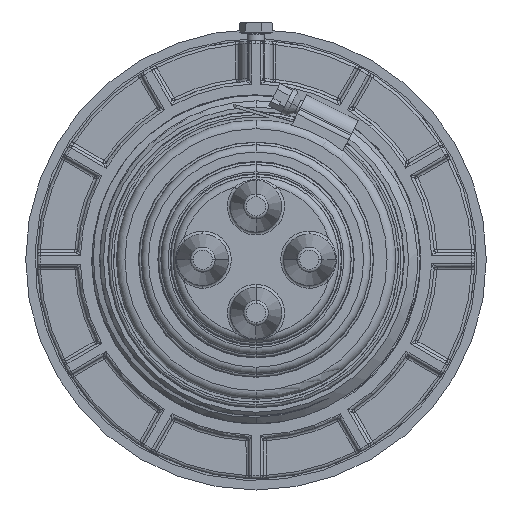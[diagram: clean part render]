
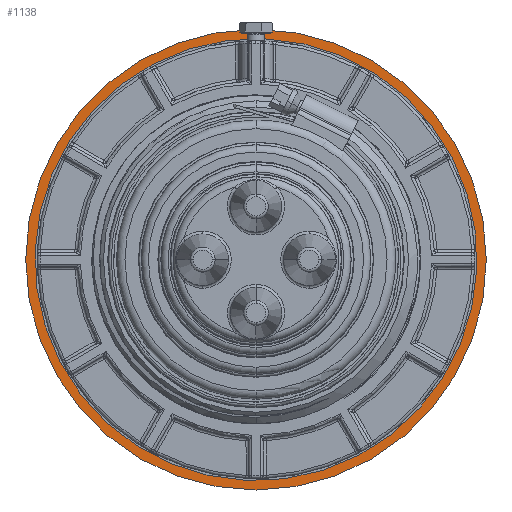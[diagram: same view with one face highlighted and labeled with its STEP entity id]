
A CAD part, front view. The second image highlights one B-rep face of the part: STEP entity #1138.
In plain terms, the highlighted planar face has unit normal (0, -1, 0).
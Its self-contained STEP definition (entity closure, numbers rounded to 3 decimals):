
#794 = EDGE_CURVE ( 'NONE', #2642, #2641, #33331, .T. ) ;
#819 = EDGE_CURVE ( 'NONE', #2641, #2642, #33287, .T. ) ;
#820 = EDGE_CURVE ( 'NONE', #30635, #30643, #33520, .T. ) ;
#1138 = ADVANCED_FACE ( 'NONE', ( #17318, #17328 ), #17329, .F. ) ;
#1571 = CARTESIAN_POINT ( 'NONE',  ( 0., 67.391, 0. ) ) ;
#1572 = DIRECTION ( 'NONE',  ( 0., -1., 0. ) ) ;
#1573 = DIRECTION ( 'NONE',  ( 0., 0., 1. ) ) ;
#2641 = VERTEX_POINT ( 'NONE', #24926 ) ;
#2642 = VERTEX_POINT ( 'NONE', #24928 ) ;
#5602 = EDGE_LOOP ( 'NONE', ( #7847, #7848 ) ) ;
#5608 = EDGE_LOOP ( 'NONE', ( #7845, #7846 ) ) ;
#6190 = EDGE_CURVE ( 'NONE', #30643, #30635, #16254, .T. ) ;
#6831 = CARTESIAN_POINT ( 'NONE',  ( 60.919, 67.391, 46.684 ) ) ;
#6839 = CARTESIAN_POINT ( 'NONE',  ( -60.919, 67.391, -46.684 ) ) ;
#7845 = ORIENTED_EDGE ( 'NONE', *, *, #794, .T. ) ;
#7846 = ORIENTED_EDGE ( 'NONE', *, *, #819, .T. ) ;
#7847 = ORIENTED_EDGE ( 'NONE', *, *, #6190, .F. ) ;
#7848 = ORIENTED_EDGE ( 'NONE', *, *, #820, .F. ) ;
#16249 = AXIS2_PLACEMENT_3D ( 'NONE', #1571, #1572, #1573 ) ;
#16254 = CIRCLE ( 'NONE', #16249, 76.75 ) ;
#17318 = FACE_OUTER_BOUND ( 'NONE', #5608, .T. ) ;
#17327 = CARTESIAN_POINT ( 'NONE',  ( -80., 67.391, 0. ) ) ;
#17328 = FACE_BOUND ( 'NONE', #5602, .T. ) ;
#17329 = PLANE ( 'NONE',  #33212 ) ;
#17330 = DIRECTION ( 'NONE',  ( 0., 1., 0. ) ) ;
#17331 = DIRECTION ( 'NONE',  ( 0., 0., 1. ) ) ;
#24926 = CARTESIAN_POINT ( 'NONE',  ( 0., 67.391, 80. ) ) ;
#24928 = CARTESIAN_POINT ( 'NONE',  ( 0., 67.391, -80. ) ) ;
#29936 = CARTESIAN_POINT ( 'NONE',  ( 0., 67.391, 0. ) ) ;
#29937 = DIRECTION ( 'NONE',  ( 0., -1., 0. ) ) ;
#29938 = DIRECTION ( 'NONE',  ( 0., 0., -1. ) ) ;
#30016 = CARTESIAN_POINT ( 'NONE',  ( 0., 67.391, 0. ) ) ;
#30017 = DIRECTION ( 'NONE',  ( 0., -1., 0. ) ) ;
#30018 = DIRECTION ( 'NONE',  ( 0., 0., -1. ) ) ;
#30019 = CARTESIAN_POINT ( 'NONE',  ( 0., 67.391, 0. ) ) ;
#30020 = DIRECTION ( 'NONE',  ( 0., -1., 0. ) ) ;
#30021 = DIRECTION ( 'NONE',  ( 0., 0., 1. ) ) ;
#30635 = VERTEX_POINT ( 'NONE', #6831 ) ;
#30643 = VERTEX_POINT ( 'NONE', #6839 ) ;
#33212 = AXIS2_PLACEMENT_3D ( 'NONE', #17327, #17330, #17331 ) ;
#33257 = AXIS2_PLACEMENT_3D ( 'NONE', #29936, #29937, #29938 ) ;
#33287 = CIRCLE ( 'NONE', #33522, 80. ) ;
#33331 = CIRCLE ( 'NONE', #33257, 80. ) ;
#33520 = CIRCLE ( 'NONE', #33524, 76.75 ) ;
#33522 = AXIS2_PLACEMENT_3D ( 'NONE', #30016, #30017, #30018 ) ;
#33524 = AXIS2_PLACEMENT_3D ( 'NONE', #30019, #30020, #30021 ) ;
